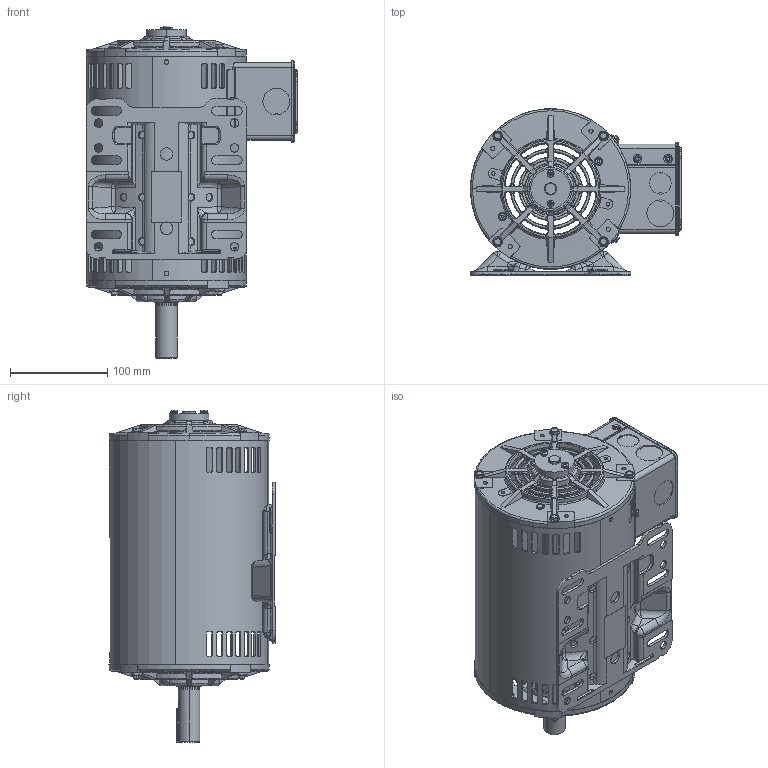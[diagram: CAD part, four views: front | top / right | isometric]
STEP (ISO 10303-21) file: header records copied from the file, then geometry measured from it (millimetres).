
FILE_DESCRIPTION (( 'STEP AP203' ), '1' );
FILE_NAME ('108065-906_RevD.STEP', '2018-02-13T06:38:18', ( '' ), ( '' ), 'SwSTEP 2.0', 'SolidWorks 2015', '' );
FILE_SCHEMA (( 'CONFIG_CONTROL_DESIGN' ));
Products named in the file (1): 108065-906_RevD
Bounding box: 217.4 x 170.59 x 341.07 mm (x, y, z)
Volume: 788743.9 mm3; surface area: 556202.2 mm2
Topology: 28 solids, 28 shells, 3316 faces, 8941 edges, 5694 vertices
Faces by surface type: plane 1355, cylinder 677, bspline 606, cone 406, torus 260, sphere 12
Entity records: 138133 total; most frequent: CARTESIAN_POINT 61251, ORIENTED_EDGE 17818, DIRECTION 13702, EDGE_CURVE 8909, VERTEX_POINT 5694, AXIS2_PLACEMENT_3D 5294, EDGE_LOOP 3613, ADVANCED_FACE 3316
